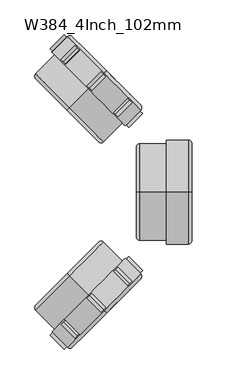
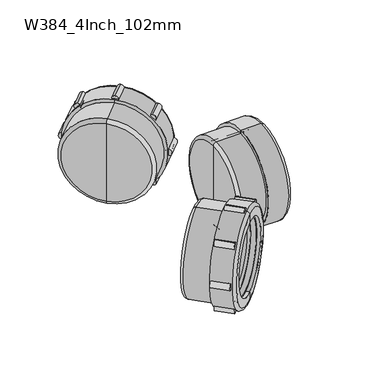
"""IFC4 building model written with IfcOpenShell, lengths in millimetres: pipe fitting geometry, Durapipe_PipeFitting_VulcatheneMechanical_DoubleWye_W38 : W384_4Inch_102mm."""

from ifc_helpers import new_model, si_unit, point, frame, frame_2d, origin, place, context, project, spatial, polyline, circle_curve, ellipse_curve, trimmed, segment, composite_curve, outline, extrude, source, transform, mapped, element, save
from ifc_brep_helpers import plane_surface, cylinder_surface, revolved_surface, advanced_brep


def w384_4inch_102mm_da0a81fd(model_context):
    return source(origin(), model_context, "Body", "SolidModel", [
        advanced_brep(
        [(137.8884702, -202.0884702, -45.3962554), (142.1384702, -197.8384702, -39.3858477), (197.8384702, -142.1384702, 39.3858477), (202.0884702, -137.8884702, 45.3962554), (184.2735424, -124.8735424, 42.0021428), (124.8735424, -184.2735424, -42.0021428), (98.7813021, -158.1813021, -42.0021428), (158.1813021, -98.7813021, 42.0021428), (157.0313021, -99.9313021, 40.3757972), (99.9313021, -157.0313021, -40.3757972), (189.5582141, -132.4582141, 40.3757972), (132.4582141, -189.5582141, -40.3757972), (188.5082141, -133.5082141, 38.890873), (133.5082141, -188.5082141, -38.890873), (136.3401946, -192.0401946, -39.3858477), (136.6901946, -191.6901946, -38.890873), (191.6901946, -136.6901946, 38.890873), (192.0401946, -136.3401946, 39.3858477)],
        [
            (0, 1),
            (1, 2, circle_curve(frame((169.9884702, -169.9884702, 0.0), z_axis=(-0.7071067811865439, 0.7071067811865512, 0.0), x_axis=(0.5000000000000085, 0.49999999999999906, 0.707106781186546)), 55.7)),
            (2, 3),
            (3, 0, circle_curve(frame((169.9884702, -169.9884702, 0.0), z_axis=(0.7071067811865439, -0.7071067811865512, 0.0), x_axis=(0.5000000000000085, 0.49999999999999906, 0.707106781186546)), 64.2)),
            (2, 1, circle_curve(frame((169.9884702, -169.9884702, 0.0), z_axis=(-0.7071067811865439, 0.7071067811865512, 0.0), x_axis=(0.5000000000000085, 0.49999999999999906, 0.707106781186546)), 55.7)),
            (0, 3, circle_curve(frame((169.9884702, -169.9884702, 0.0), z_axis=(0.7071067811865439, -0.7071067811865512, 0.0), x_axis=(0.5000000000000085, 0.49999999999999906, 0.707106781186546)), 64.2)),
            (3, 4),
            (4, 5, circle_curve(frame((154.5735424, -154.5735424, 0.0), z_axis=(0.7071067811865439, -0.7071067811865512, 0.0), x_axis=(0.5000000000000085, 0.49999999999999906, 0.707106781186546)), 59.4)),
            (5, 0),
            (5, 4, circle_curve(frame((154.5735424, -154.5735424, 0.0), z_axis=(0.7071067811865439, -0.7071067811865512, 0.0), x_axis=(0.5000000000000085, 0.49999999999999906, 0.707106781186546)), 59.4)),
            (6, 5),
            (4, 7),
            (7, 6, circle_curve(frame((128.4813021, -128.4813021, 0.0), z_axis=(0.7071067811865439, -0.7071067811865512, 0.0), x_axis=(0.5000000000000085, 0.49999999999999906, 0.707106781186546)), 59.4)),
            (6, 7, circle_curve(frame((128.4813021, -128.4813021, 0.0), z_axis=(0.7071067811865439, -0.7071067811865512, 0.0), x_axis=(0.5000000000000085, 0.49999999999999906, 0.707106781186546)), 59.4)),
            (7, 8),
            (8, 9, circle_curve(frame((128.4813021, -128.4813021, 0.0), z_axis=(0.7071067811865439, -0.7071067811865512, 0.0), x_axis=(0.5000000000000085, 0.49999999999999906, 0.707106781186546)), 57.1)),
            (9, 6),
            (9, 8, circle_curve(frame((128.4813021, -128.4813021, 0.0), z_axis=(0.7071067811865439, -0.7071067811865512, 0.0), x_axis=(0.5000000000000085, 0.49999999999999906, 0.707106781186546)), 57.1)),
            (8, 10),
            (10, 11, circle_curve(frame((161.0082141, -161.0082141, 0.0), z_axis=(0.7071067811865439, -0.7071067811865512, 0.0), x_axis=(0.5000000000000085, 0.49999999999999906, 0.707106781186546)), 57.1)),
            (11, 9),
            (11, 10, circle_curve(frame((161.0082141, -161.0082141, 0.0), z_axis=(0.7071067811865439, -0.7071067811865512, 0.0), x_axis=(0.5000000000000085, 0.49999999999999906, 0.707106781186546)), 57.1)),
            (10, 12),
            (12, 13, circle_curve(frame((161.0082141, -161.0082141, 0.0), z_axis=(0.7071067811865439, -0.7071067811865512, 0.0), x_axis=(0.5000000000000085, 0.49999999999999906, 0.707106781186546)), 55.0)),
            (13, 11),
            (13, 12, circle_curve(frame((161.0082141, -161.0082141, 0.0), z_axis=(0.7071067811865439, -0.7071067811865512, 0.0), x_axis=(0.5000000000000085, 0.49999999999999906, 0.707106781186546)), 55.0)),
            (14, 15),
            (15, 16, circle_curve(frame((164.1901946, -164.1901946, 0.0), z_axis=(-0.7071067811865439, 0.7071067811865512, 0.0), x_axis=(0.5000000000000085, 0.49999999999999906, 0.707106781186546)), 55.0)),
            (16, 17),
            (17, 14, circle_curve(frame((164.1901946, -164.1901946, 0.0), z_axis=(0.7071067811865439, -0.7071067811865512, 0.0), x_axis=(0.5000000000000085, 0.49999999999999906, 0.707106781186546)), 55.7)),
            (16, 15, circle_curve(frame((164.1901946, -164.1901946, 0.0), z_axis=(-0.7071067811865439, 0.7071067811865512, 0.0), x_axis=(0.5000000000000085, 0.49999999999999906, 0.707106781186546)), 55.0)),
            (14, 17, circle_curve(frame((164.1901946, -164.1901946, 0.0), z_axis=(0.7071067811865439, -0.7071067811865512, 0.0), x_axis=(0.5000000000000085, 0.49999999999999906, 0.707106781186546)), 55.7)),
            (1, 14),
            (17, 2),
            (12, 16),
            (15, 13),
        ],
        [
            plane_surface(frame((169.9884702, -169.9884702, 0.0), z_axis=(0.707106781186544, -0.7071067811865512, 0.0), x_axis=(0.5000000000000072, 0.4999999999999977, 0.7071067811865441))),
            revolved_surface(polyline([(202.0884702, -137.8884702, 45.3962554), (184.2735424, -124.8735424, 42.0021428)]), (173.5240041, -173.5240041, 0.0), (-0.7071067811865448, 0.7071067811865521, 0.0)),
            cylinder_surface(frame((127.0171274, -127.0171274, 0.0), z_axis=(-0.7071067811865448, 0.7071067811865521, 0.0), x_axis=(0.5000000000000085, 0.49999999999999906, 0.707106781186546)), 59.4),
            plane_surface(frame((128.4813021, -128.4813021, 0.0), z_axis=(-0.707106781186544, 0.7071067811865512, 0.0), x_axis=(0.5000000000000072, 0.4999999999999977, 0.7071067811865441))),
            revolved_surface(polyline([(157.03130210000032, -99.93130209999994, 40.37579720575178), (189.55821410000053, -132.45821410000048, 40.37579720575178)]), (126.0113846, -126.0113846, 0.0), (-0.7071067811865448, 0.7071067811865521, 0.0)),
            plane_surface(frame((161.0082141, -161.0082141, 0.0), z_axis=(-0.707106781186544, 0.7071067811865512, 0.0), x_axis=(0.5000000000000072, 0.4999999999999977, 0.7071067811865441))),
            plane_surface(frame((164.1901946, -164.1901946, 0.0), z_axis=(0.707106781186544, -0.7071067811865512, 0.0), x_axis=(0.5000000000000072, 0.4999999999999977, 0.7071067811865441))),
            revolved_surface(polyline([(192.04019460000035, -136.34019459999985, 39.385847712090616), (197.83847020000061, -142.13847020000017, 39.385847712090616)]), (173.5240041, -173.5240041, 0.0), (-0.7071067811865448, 0.7071067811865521, 0.0)),
            revolved_surface(polyline([(188.50821410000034, -133.50821409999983, 38.89087296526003), (191.69019460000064, -136.69019460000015, 38.89087296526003)]), (171.0959355, -171.0959355, 0.0), (-0.7071067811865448, 0.7071067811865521, 0.0)),
        ],
        [
            (0, [[1, 2, 3, 4]]),
            (0, [[5, -1, 6, -3]]),
            (1, [[7, 8, 9, -4]]),
            (1, [[-9, 10, -7, -6]]),
            (2, [[11, -8, 12, 13]]),
            (2, [[-10, -11, 14, -12]]),
            (3, [[15, 16, 17, -13]]),
            (3, [[-17, 18, -15, -14]]),
            (4, [[-16, 19, 20, 21]]),
            (4, [[22, -19, -18, -21]]),
            (5, [[23, 24, 25, -20]]),
            (5, [[-25, 26, -23, -22]]),
            (6, [[27, 28, 29, 30]]),
            (6, [[-29, 31, -27, 32]]),
            (7, [[33, -30, 34, -2]]),
            (7, [[-34, -32, -33, -5]]),
            (8, [[-24, 35, -28, 36]]),
            (8, [[-31, -35, -26, -36]]),
        ],
    ),
        advanced_brep(
        [(148.06816, -148.06816, -75.0), (170.3420236, -170.3420236, -75.0), (170.3420236, -170.3420236, 75.0), (148.06816, -148.06816, 75.0), (148.06816, -148.06816, -69.5), (148.06816, -148.06816, 69.5), (173.8775575, -173.8775575, -70.0), (173.8775575, -173.8775575, -57.5), (173.8775575, -173.8775575, 57.5), (173.8775575, -173.8775575, 70.0), (169.9884702, -169.9884702, -66.0), (148.06816, -148.06816, -66.0), (148.06816, -148.06816, 66.0), (169.9884702, -169.9884702, 66.0), (169.9884702, -169.9884702, -57.5), (169.9884702, -169.9884702, 57.5), (120.8445489, -120.8445489, -69.5), (120.8445489, -120.8445489, 69.5), (117.309015, -117.309015, -64.5), (117.309015, -117.309015, 64.5), (117.309015, -117.309015, 0.0), (148.06816, -148.06816, 0.0)],
        [
            (0, 1),
            (1, 2, circle_curve(frame((170.3420236, -170.3420236, 0.0), z_axis=(-0.7071067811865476, 0.7071067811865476, 0.0), x_axis=(0.0, 0.0, 1.0000000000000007)), 75.0)),
            (2, 3),
            (3, 0, circle_curve(frame((148.06816, -148.06816, 0.0), z_axis=(0.7071067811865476, -0.7071067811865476, 0.0), x_axis=(0.0, 0.0, 1.0000000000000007)), 75.0)),
            (2, 1, circle_curve(frame((170.3420236, -170.3420236, 0.0), z_axis=(-0.7071067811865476, 0.7071067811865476, 0.0), x_axis=(0.0, 0.0, 1.0000000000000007)), 75.0)),
            (0, 3, circle_curve(frame((148.06816, -148.06816, 0.0), z_axis=(0.7071067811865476, -0.7071067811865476, 0.0), x_axis=(0.0, 0.0, 1.0000000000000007)), 75.0)),
            (4, 0),
            (3, 5),
            (5, 4, circle_curve(frame((148.06816, -148.06816, 0.0), z_axis=(0.7071067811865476, -0.7071067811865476, 0.0), x_axis=(0.0, 0.0, 1.0000000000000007)), 69.5)),
            (4, 5, circle_curve(frame((148.06816, -148.06816, 0.0), z_axis=(0.7071067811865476, -0.7071067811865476, 0.0), x_axis=(0.0, 0.0, 1.0000000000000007)), 69.5)),
            (6, 7),
            (7, 8, circle_curve(frame((173.8775575, -173.8775575, 0.0), z_axis=(-0.7071067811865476, 0.7071067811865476, 0.0), x_axis=(0.0, 0.0, 1.0000000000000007)), 57.5)),
            (8, 9),
            (9, 6, circle_curve(frame((173.8775575, -173.8775575, 0.0), z_axis=(0.7071067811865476, -0.7071067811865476, 0.0), x_axis=(0.0, 0.0, 1.0000000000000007)), 70.0)),
            (8, 7, circle_curve(frame((173.8775575, -173.8775575, 0.0), z_axis=(-0.7071067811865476, 0.7071067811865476, 0.0), x_axis=(0.0, 0.0, 1.0000000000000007)), 57.5)),
            (6, 9, circle_curve(frame((173.8775575, -173.8775575, 0.0), z_axis=(0.7071067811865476, -0.7071067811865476, 0.0), x_axis=(0.0, 0.0, 1.0000000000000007)), 70.0)),
            (1, 6, circle_curve(frame((170.3420236, -170.3420236, -70.0), z_axis=(-0.7071067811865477, -0.7071067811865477, 0.0), x_axis=(0.7071067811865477, -0.7071067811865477, 0.0)), 5.0)),
            (9, 2, circle_curve(frame((170.3420236, -170.3420236, 70.0), z_axis=(-0.7071067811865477, -0.7071067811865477, 0.0), x_axis=(0.7071067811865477, -0.7071067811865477, 0.0)), 5.0)),
            (10, 11),
            (11, 12, circle_curve(frame((148.06816, -148.06816, 0.0), z_axis=(-0.7071067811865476, 0.7071067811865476, 0.0), x_axis=(0.0, 0.0, 1.0000000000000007)), 66.0)),
            (12, 13),
            (13, 10, circle_curve(frame((169.9884702, -169.9884702, 0.0), z_axis=(0.7071067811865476, -0.7071067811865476, 0.0), x_axis=(0.0, 0.0, 1.0000000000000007)), 66.0)),
            (12, 11, circle_curve(frame((148.06816, -148.06816, 0.0), z_axis=(-0.7071067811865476, 0.7071067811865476, 0.0), x_axis=(0.0, 0.0, 1.0000000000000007)), 66.0)),
            (10, 13, circle_curve(frame((169.9884702, -169.9884702, 0.0), z_axis=(0.7071067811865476, -0.7071067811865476, 0.0), x_axis=(0.0, 0.0, 1.0000000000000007)), 66.0)),
            (14, 10),
            (13, 15),
            (15, 14, circle_curve(frame((169.9884702, -169.9884702, 0.0), z_axis=(0.7071067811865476, -0.7071067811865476, 0.0), x_axis=(0.0, 0.0, 1.0000000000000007)), 57.5)),
            (14, 15, circle_curve(frame((169.9884702, -169.9884702, 0.0), z_axis=(0.7071067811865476, -0.7071067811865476, 0.0), x_axis=(0.0, 0.0, 1.0000000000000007)), 57.5)),
            (7, 14),
            (15, 8),
            (16, 4),
            (5, 17),
            (17, 16, circle_curve(frame((120.8445489, -120.8445489, 0.0), z_axis=(0.7071067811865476, -0.7071067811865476, 0.0), x_axis=(0.0, 0.0, 1.0000000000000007)), 69.5)),
            (16, 17, circle_curve(frame((120.8445489, -120.8445489, 0.0), z_axis=(0.7071067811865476, -0.7071067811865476, 0.0), x_axis=(0.0, 0.0, 1.0000000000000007)), 69.5)),
            (18, 16, circle_curve(frame((120.8445489, -120.8445489, -64.5), z_axis=(-0.7071067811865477, -0.7071067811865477, 0.0), x_axis=(0.7071067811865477, -0.7071067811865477, 0.0)), 5.0)),
            (17, 19, circle_curve(frame((120.8445489, -120.8445489, 64.5), z_axis=(-0.7071067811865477, -0.7071067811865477, 0.0), x_axis=(0.7071067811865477, -0.7071067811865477, 0.0)), 5.0)),
            (19, 18, circle_curve(frame((117.309015, -117.309015, 0.0), z_axis=(0.7071067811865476, -0.7071067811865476, 0.0), x_axis=(0.0, 0.0, 1.0000000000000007)), 64.5)),
            (18, 19, circle_curve(frame((117.309015, -117.309015, 0.0), z_axis=(0.7071067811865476, -0.7071067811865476, 0.0), x_axis=(0.0, 0.0, 1.0000000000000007)), 64.5)),
            (20, 18),
            (19, 20),
            (11, 21),
            (21, 12),
        ],
        [
            cylinder_surface(frame((1277.5311074, -1277.5311074, 0.0), z_axis=(-0.7071067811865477, 0.7071067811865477, 0.0), x_axis=(0.0, 0.0, 1.0000000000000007)), 75.0),
            plane_surface(frame((148.06816, -148.06816, 0.0), z_axis=(-0.7071067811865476, 0.7071067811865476, 0.0), x_axis=(0.0, 0.0, 1.0))),
            plane_surface(frame((173.8775575, -173.8775575, 0.0), z_axis=(0.7071067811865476, -0.7071067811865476, 0.0), x_axis=(0.0, 0.0, 1.0))),
            revolved_surface(trimmed(ellipse_curve(frame((170.3420236, -170.3420236, 70.0), z_axis=(-0.7071067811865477, -0.7071067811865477, 0.0), x_axis=(0.7071067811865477, -0.7071067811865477, 0.0)), 5.0, 5.0), [point((173.8775575, -173.8775575, 70.0))], [point((170.3420236, -170.3420236, 75.0))], True, "CARTESIAN"), (1277.5311074, -1277.5311074, 0.0), (-0.7071067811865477, 0.7071067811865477, 0.0)),
            revolved_surface(polyline([(148.06815999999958, -148.06815999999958, 66.00000000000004), (169.98847019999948, -169.98847019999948, 66.00000000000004)]), (1277.5311074, -1277.5311074, 0.0), (-0.7071067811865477, 0.7071067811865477, 0.0)),
            plane_surface(frame((169.9884702, -169.9884702, 0.0), z_axis=(-0.7071067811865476, 0.7071067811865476, 0.0), x_axis=(0.0, 0.0, 1.0))),
            revolved_surface(polyline([(169.98847019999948, -169.98847019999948, 57.500000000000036), (173.8775574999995, -173.8775574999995, 57.500000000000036)]), (1277.5311074, -1277.5311074, 0.0), (-0.7071067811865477, 0.7071067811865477, 0.0)),
            cylinder_surface(frame((1277.5311074, -1277.5311074, 0.0), z_axis=(-0.7071067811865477, 0.7071067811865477, 0.0), x_axis=(0.0, 0.0, 1.0000000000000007)), 69.5),
            revolved_surface(trimmed(ellipse_curve(frame((120.8445489, -120.8445489, 64.5), z_axis=(-0.7071067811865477, -0.7071067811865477, 0.0), x_axis=(0.7071067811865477, -0.7071067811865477, 0.0)), 5.0, 5.0), [point((120.8445489, -120.8445489, 69.5))], [point((117.309015, -117.309015, 64.5))], True, "CARTESIAN"), (1277.5311074, -1277.5311074, 0.0), (-0.7071067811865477, 0.7071067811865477, 0.0)),
            plane_surface(frame((117.309015, -117.309015, 0.0), z_axis=(-0.7071067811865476, 0.7071067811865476, 0.0), x_axis=(0.0, 0.0, 1.0))),
            plane_surface(frame((148.06816, -148.06816, 0.0), z_axis=(0.7071067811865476, -0.7071067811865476, 0.0), x_axis=(0.0, 0.0, 1.0))),
        ],
        [
            (0, [[1, 2, 3, 4]]),
            (0, [[-3, 5, -1, 6]]),
            (1, [[7, -4, 8, 9]]),
            (1, [[-8, -6, -7, 10]]),
            (2, [[11, 12, 13, 14]]),
            (2, [[-13, 15, -11, 16]]),
            (3, [[17, -14, 18, -2]]),
            (3, [[-18, -16, -17, -5]]),
            (4, [[19, 20, 21, 22]]),
            (4, [[-21, 23, -19, 24]]),
            (5, [[25, -22, 26, 27]]),
            (5, [[-26, -24, -25, 28]]),
            (6, [[29, -27, 30, -12]]),
            (6, [[-30, -28, -29, -15]]),
            (7, [[31, -9, 32, 33]]),
            (7, [[-32, -10, -31, 34]]),
            (8, [[35, -33, 36, 37]]),
            (8, [[-36, -34, -35, 38]]),
            (9, [[39, -37, 40]]),
            (9, [[-40, -38, -39]]),
            (10, [[41, 42, -20]]),
            (10, [[-42, -41, -23]]),
        ],
    ),
        extrude(outline(composite_curve([segment(trimmed(circle_curve(frame_2d((0.0, 5.0)), 5.0), [point((0.0, 10.0))], [point((0.0, 0.0))], False, "CARTESIAN"), True, "CONTINUOUS"), segment(trimmed(circle_curve(frame_2d((0.0, 5.0)), 5.0), [point((0.0, 0.0))], [point((0.0, 10.0))], False, "CARTESIAN"), True, "CONTINUOUS")], self_intersect=False)), frame((222.314372, -116.2483548, 5.0), z_axis=(-0.7071067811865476, 0.7071067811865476, 0.0), x_axis=(0.7071067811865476, 0.7071067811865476, 0.0)), (0.0, 0.0, 1.0), 28.2),
        extrude(outline(composite_curve([segment(trimmed(circle_curve(frame_2d((-21.9669914, -48.0330086)), 5.0), [point((-21.9669914, -43.0330086))], [point((-21.9669914, -53.0330086))], False, "CARTESIAN"), True, "CONTINUOUS"), segment(trimmed(circle_curve(frame_2d((-21.9669914, -48.0330086)), 5.0), [point((-21.9669914, -53.0330086))], [point((-21.9669914, -43.0330086))], False, "CARTESIAN"), True, "CONTINUOUS")], self_intersect=False)), frame((222.314372, -116.2483548, 5.0), z_axis=(-0.7071067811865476, 0.7071067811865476, 0.0), x_axis=(0.7071067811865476, 0.7071067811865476, 0.0)), (0.0, 0.0, 1.0), 28.2),
        extrude(outline(composite_curve([segment(trimmed(circle_curve(frame_2d((-75.0, -70.0)), 5.0), [point((-75.0, -65.0))], [point((-75.0, -75.0))], False, "CARTESIAN"), True, "CONTINUOUS"), segment(trimmed(circle_curve(frame_2d((-75.0, -70.0)), 5.0), [point((-75.0, -75.0))], [point((-75.0, -65.0))], False, "CARTESIAN"), True, "CONTINUOUS")], self_intersect=False)), frame((222.314372, -116.2483548, 5.0), z_axis=(-0.7071067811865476, 0.7071067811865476, 0.0), x_axis=(0.7071067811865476, 0.7071067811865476, 0.0)), (0.0, 0.0, 1.0), 28.2),
        extrude(outline(composite_curve([segment(trimmed(circle_curve(frame_2d((-128.0330086, -48.0330086)), 5.0), [point((-128.0330086, -43.0330086))], [point((-128.0330086, -53.0330086))], False, "CARTESIAN"), True, "CONTINUOUS"), segment(trimmed(circle_curve(frame_2d((-128.0330086, -48.0330086)), 5.0), [point((-128.0330086, -53.0330086))], [point((-128.0330086, -43.0330086))], False, "CARTESIAN"), True, "CONTINUOUS")], self_intersect=False)), frame((222.314372, -116.2483548, 5.0), z_axis=(-0.7071067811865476, 0.7071067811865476, 0.0), x_axis=(0.7071067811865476, 0.7071067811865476, 0.0)), (0.0, 0.0, 1.0), 28.2),
        extrude(outline(composite_curve([segment(trimmed(circle_curve(frame_2d((-150.0, 5.0)), 5.0), [point((-150.0, 10.0))], [point((-150.0, 0.0))], False, "CARTESIAN"), True, "CONTINUOUS"), segment(trimmed(circle_curve(frame_2d((-150.0, 5.0)), 5.0), [point((-150.0, 0.0))], [point((-150.0, 10.0))], False, "CARTESIAN"), True, "CONTINUOUS")], self_intersect=False)), frame((222.314372, -116.2483548, 5.0), z_axis=(-0.7071067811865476, 0.7071067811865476, 0.0), x_axis=(0.7071067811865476, 0.7071067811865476, 0.0)), (0.0, 0.0, 1.0), 28.2),
        extrude(outline(composite_curve([segment(trimmed(circle_curve(frame_2d((-128.0330086, 58.0330086)), 5.0), [point((-128.0330086, 63.0330086))], [point((-128.0330086, 53.0330086))], False, "CARTESIAN"), True, "CONTINUOUS"), segment(trimmed(circle_curve(frame_2d((-128.0330086, 58.0330086)), 5.0), [point((-128.0330086, 53.0330086))], [point((-128.0330086, 63.0330086))], False, "CARTESIAN"), True, "CONTINUOUS")], self_intersect=False)), frame((222.314372, -116.2483548, 5.0), z_axis=(-0.7071067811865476, 0.7071067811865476, 0.0), x_axis=(0.7071067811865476, 0.7071067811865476, 0.0)), (0.0, 0.0, 1.0), 28.2),
        extrude(outline(composite_curve([segment(trimmed(circle_curve(frame_2d((-75.0, 80.0)), 5.0), [point((-75.0, 85.0))], [point((-75.0, 75.0))], False, "CARTESIAN"), True, "CONTINUOUS"), segment(trimmed(circle_curve(frame_2d((-75.0, 80.0)), 5.0), [point((-75.0, 75.0))], [point((-75.0, 85.0))], False, "CARTESIAN"), True, "CONTINUOUS")], self_intersect=False)), frame((222.314372, -116.2483548, 5.0), z_axis=(-0.7071067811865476, 0.7071067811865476, 0.0), x_axis=(0.7071067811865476, 0.7071067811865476, 0.0)), (0.0, 0.0, 1.0), 28.2),
        extrude(outline(composite_curve([segment(trimmed(circle_curve(frame_2d((-21.9669914, 58.0330086)), 5.0), [point((-21.9669914, 63.0330086))], [point((-21.9669914, 53.0330086))], False, "CARTESIAN"), True, "CONTINUOUS"), segment(trimmed(circle_curve(frame_2d((-21.9669914, 58.0330086)), 5.0), [point((-21.9669914, 53.0330086))], [point((-21.9669914, 63.0330086))], False, "CARTESIAN"), True, "CONTINUOUS")], self_intersect=False)), frame((222.314372, -116.2483548, 5.0), z_axis=(-0.7071067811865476, 0.7071067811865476, 0.0), x_axis=(0.7071067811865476, 0.7071067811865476, 0.0)), (0.0, 0.0, 1.0), 28.2),
        advanced_brep(
        [(202.0884702, 137.8884702, -45.3962554), (197.8384702, 142.1384702, -39.3858477), (142.1384702, 197.8384702, 39.3858477), (137.8884702, 202.0884702, 45.3962554), (124.8735424, 184.2735424, 42.0021428), (184.2735424, 124.8735424, -42.0021428), (158.1813021, 98.7813021, -42.0021428), (98.7813021, 158.1813021, 42.0021428), (99.9313021, 157.0313021, 40.3757972), (157.0313021, 99.9313021, -40.3757972), (132.4582141, 189.5582141, 40.3757972), (189.5582141, 132.4582141, -40.3757972), (133.5082141, 188.5082141, 38.890873), (188.5082141, 133.5082141, -38.890873), (192.0401946, 136.3401946, -39.3858477), (191.6901946, 136.6901946, -38.890873), (136.6901946, 191.6901946, 38.890873), (136.3401946, 192.0401946, 39.3858477)],
        [
            (0, 1),
            (1, 2, circle_curve(frame((169.9884702, 169.9884702, 0.0), z_axis=(-0.7071067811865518, -0.7071067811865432, 0.0), x_axis=(-0.4999999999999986, 0.500000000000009, 0.7071067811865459)), 55.7)),
            (2, 3),
            (3, 0, circle_curve(frame((169.9884702, 169.9884702, 0.0), z_axis=(0.7071067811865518, 0.7071067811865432, 0.0), x_axis=(-0.4999999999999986, 0.500000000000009, 0.7071067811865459)), 64.2)),
            (2, 1, circle_curve(frame((169.9884702, 169.9884702, 0.0), z_axis=(-0.7071067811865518, -0.7071067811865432, 0.0), x_axis=(-0.4999999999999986, 0.500000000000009, 0.7071067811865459)), 55.7)),
            (0, 3, circle_curve(frame((169.9884702, 169.9884702, 0.0), z_axis=(0.7071067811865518, 0.7071067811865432, 0.0), x_axis=(-0.4999999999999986, 0.500000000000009, 0.7071067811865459)), 64.2)),
            (3, 4),
            (4, 5, circle_curve(frame((154.5735424, 154.5735424, 0.0), z_axis=(0.7071067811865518, 0.7071067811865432, 0.0), x_axis=(-0.4999999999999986, 0.500000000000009, 0.7071067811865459)), 59.4)),
            (5, 0),
            (5, 4, circle_curve(frame((154.5735424, 154.5735424, 0.0), z_axis=(0.7071067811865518, 0.7071067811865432, 0.0), x_axis=(-0.4999999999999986, 0.500000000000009, 0.7071067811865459)), 59.4)),
            (6, 5),
            (4, 7),
            (7, 6, circle_curve(frame((128.4813021, 128.4813021, 0.0), z_axis=(0.7071067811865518, 0.7071067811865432, 0.0), x_axis=(-0.4999999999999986, 0.500000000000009, 0.7071067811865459)), 59.4)),
            (6, 7, circle_curve(frame((128.4813021, 128.4813021, 0.0), z_axis=(0.7071067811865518, 0.7071067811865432, 0.0), x_axis=(-0.4999999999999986, 0.500000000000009, 0.7071067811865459)), 59.4)),
            (7, 8),
            (8, 9, circle_curve(frame((128.4813021, 128.4813021, 0.0), z_axis=(0.7071067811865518, 0.7071067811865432, 0.0), x_axis=(-0.4999999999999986, 0.500000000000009, 0.7071067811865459)), 57.1)),
            (9, 6),
            (9, 8, circle_curve(frame((128.4813021, 128.4813021, 0.0), z_axis=(0.7071067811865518, 0.7071067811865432, 0.0), x_axis=(-0.4999999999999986, 0.500000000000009, 0.7071067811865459)), 57.1)),
            (8, 10),
            (10, 11, circle_curve(frame((161.0082141, 161.0082141, 0.0), z_axis=(0.7071067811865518, 0.7071067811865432, 0.0), x_axis=(-0.4999999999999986, 0.500000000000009, 0.7071067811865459)), 57.1)),
            (11, 9),
            (11, 10, circle_curve(frame((161.0082141, 161.0082141, 0.0), z_axis=(0.7071067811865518, 0.7071067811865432, 0.0), x_axis=(-0.4999999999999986, 0.500000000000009, 0.7071067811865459)), 57.1)),
            (10, 12),
            (12, 13, circle_curve(frame((161.0082141, 161.0082141, 0.0), z_axis=(0.7071067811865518, 0.7071067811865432, 0.0), x_axis=(-0.4999999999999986, 0.500000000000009, 0.7071067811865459)), 55.0)),
            (13, 11),
            (13, 12, circle_curve(frame((161.0082141, 161.0082141, 0.0), z_axis=(0.7071067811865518, 0.7071067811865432, 0.0), x_axis=(-0.4999999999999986, 0.500000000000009, 0.7071067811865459)), 55.0)),
            (14, 15),
            (15, 16, circle_curve(frame((164.1901946, 164.1901946, 0.0), z_axis=(-0.7071067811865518, -0.7071067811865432, 0.0), x_axis=(-0.4999999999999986, 0.500000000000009, 0.7071067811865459)), 55.0)),
            (16, 17),
            (17, 14, circle_curve(frame((164.1901946, 164.1901946, 0.0), z_axis=(0.7071067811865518, 0.7071067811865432, 0.0), x_axis=(-0.4999999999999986, 0.500000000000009, 0.7071067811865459)), 55.7)),
            (16, 15, circle_curve(frame((164.1901946, 164.1901946, 0.0), z_axis=(-0.7071067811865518, -0.7071067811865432, 0.0), x_axis=(-0.4999999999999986, 0.500000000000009, 0.7071067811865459)), 55.0)),
            (14, 17, circle_curve(frame((164.1901946, 164.1901946, 0.0), z_axis=(0.7071067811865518, 0.7071067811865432, 0.0), x_axis=(-0.4999999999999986, 0.500000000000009, 0.7071067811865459)), 55.7)),
            (1, 14),
            (17, 2),
            (12, 16),
            (15, 13),
        ],
        [
            plane_surface(frame((169.9884702, 169.9884702, 0.0), z_axis=(0.7071067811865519, 0.7071067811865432, 0.0), x_axis=(-0.4999999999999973, 0.5000000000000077, 0.707106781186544))),
            revolved_surface(polyline([(137.8884702, 202.0884702, 45.3962554), (124.8735424, 184.2735424, 42.0021428)]), (173.5240041, 173.5240041, 0.0), (-0.7071067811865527, -0.7071067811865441, 0.0)),
            cylinder_surface(frame((127.0171274, 127.0171274, 0.0), z_axis=(-0.7071067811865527, -0.7071067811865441, 0.0), x_axis=(-0.4999999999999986, 0.500000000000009, 0.7071067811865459)), 59.4),
            plane_surface(frame((128.4813021, 128.4813021, 0.0), z_axis=(-0.7071067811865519, -0.7071067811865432, 0.0), x_axis=(-0.4999999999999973, 0.5000000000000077, 0.707106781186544))),
            revolved_surface(polyline([(99.93130209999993, 157.03130210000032, 40.37579720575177), (132.45821410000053, 189.55821410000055, 40.37579720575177)]), (126.0113846, 126.0113846, 0.0), (-0.7071067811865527, -0.7071067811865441, 0.0)),
            plane_surface(frame((161.0082141, 161.0082141, 0.0), z_axis=(-0.7071067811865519, -0.7071067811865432, 0.0), x_axis=(-0.4999999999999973, 0.5000000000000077, 0.707106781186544))),
            plane_surface(frame((164.1901946, 164.1901946, 0.0), z_axis=(0.7071067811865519, 0.7071067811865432, 0.0), x_axis=(-0.4999999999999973, 0.5000000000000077, 0.707106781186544))),
            revolved_surface(polyline([(136.34019459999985, 192.04019460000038, 39.38584771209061), (142.13847020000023, 197.83847020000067, 39.38584771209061)]), (173.5240041, 173.5240041, 0.0), (-0.7071067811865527, -0.7071067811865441, 0.0)),
            revolved_surface(polyline([(133.50821409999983, 188.50821410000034, 38.89087296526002), (136.6901946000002, 191.6901946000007, 38.89087296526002)]), (171.0959355, 171.0959355, 0.0), (-0.7071067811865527, -0.7071067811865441, 0.0)),
        ],
        [
            (0, [[1, 2, 3, 4]]),
            (0, [[5, -1, 6, -3]]),
            (1, [[7, 8, 9, -4]]),
            (1, [[-9, 10, -7, -6]]),
            (2, [[11, -8, 12, 13]]),
            (2, [[-10, -11, 14, -12]]),
            (3, [[15, 16, 17, -13]]),
            (3, [[-17, 18, -15, -14]]),
            (4, [[-16, 19, 20, 21]]),
            (4, [[22, -19, -18, -21]]),
            (5, [[23, 24, 25, -20]]),
            (5, [[-25, 26, -23, -22]]),
            (6, [[27, 28, 29, 30]]),
            (6, [[-29, 31, -27, 32]]),
            (7, [[33, -30, 34, -2]]),
            (7, [[-34, -32, -33, -5]]),
            (8, [[-24, 35, -28, 36]]),
            (8, [[-31, -35, -26, -36]]),
        ],
    ),
        advanced_brep(
        [(148.06816, 148.06816, -75.0), (170.3420236, 170.3420236, -75.0), (170.3420236, 170.3420236, 75.0), (148.06816, 148.06816, 75.0), (148.06816, 148.06816, -69.5), (148.06816, 148.06816, 69.5), (173.8775575, 173.8775575, -70.0), (173.8775575, 173.8775575, -57.5), (173.8775575, 173.8775575, 57.5), (173.8775575, 173.8775575, 70.0), (169.9884702, 169.9884702, -66.0), (148.06816, 148.06816, -66.0), (148.06816, 148.06816, 66.0), (169.9884702, 169.9884702, 66.0), (169.9884702, 169.9884702, -57.5), (169.9884702, 169.9884702, 57.5), (120.8445489, 120.8445489, -69.5), (120.8445489, 120.8445489, 69.5), (117.309015, 117.309015, -64.5), (117.309015, 117.309015, 64.5), (117.309015, 117.309015, 0.0), (148.06816, 148.06816, 0.0)],
        [
            (0, 1),
            (1, 2, circle_curve(frame((170.3420236, 170.3420236, 0.0), z_axis=(-0.7071067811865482, -0.707106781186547, 0.0), x_axis=(0.0, 0.0, 1.0000000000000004)), 75.0)),
            (2, 3),
            (3, 0, circle_curve(frame((148.06816, 148.06816, 0.0), z_axis=(0.7071067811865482, 0.707106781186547, 0.0), x_axis=(0.0, 0.0, 1.0000000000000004)), 75.0)),
            (2, 1, circle_curve(frame((170.3420236, 170.3420236, 0.0), z_axis=(-0.7071067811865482, -0.707106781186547, 0.0), x_axis=(0.0, 0.0, 1.0000000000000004)), 75.0)),
            (0, 3, circle_curve(frame((148.06816, 148.06816, 0.0), z_axis=(0.7071067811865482, 0.707106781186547, 0.0), x_axis=(0.0, 0.0, 1.0000000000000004)), 75.0)),
            (4, 0),
            (3, 5),
            (5, 4, circle_curve(frame((148.06816, 148.06816, 0.0), z_axis=(0.7071067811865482, 0.707106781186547, 0.0), x_axis=(0.0, 0.0, 1.0000000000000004)), 69.5)),
            (4, 5, circle_curve(frame((148.06816, 148.06816, 0.0), z_axis=(0.7071067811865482, 0.707106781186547, 0.0), x_axis=(0.0, 0.0, 1.0000000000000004)), 69.5)),
            (6, 7),
            (7, 8, circle_curve(frame((173.8775575, 173.8775575, 0.0), z_axis=(-0.7071067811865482, -0.707106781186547, 0.0), x_axis=(0.0, 0.0, 1.0000000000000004)), 57.5)),
            (8, 9),
            (9, 6, circle_curve(frame((173.8775575, 173.8775575, 0.0), z_axis=(0.7071067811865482, 0.707106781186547, 0.0), x_axis=(0.0, 0.0, 1.0000000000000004)), 70.0)),
            (8, 7, circle_curve(frame((173.8775575, 173.8775575, 0.0), z_axis=(-0.7071067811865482, -0.707106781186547, 0.0), x_axis=(0.0, 0.0, 1.0000000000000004)), 57.5)),
            (6, 9, circle_curve(frame((173.8775575, 173.8775575, 0.0), z_axis=(0.7071067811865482, 0.707106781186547, 0.0), x_axis=(0.0, 0.0, 1.0000000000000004)), 70.0)),
            (1, 6, circle_curve(frame((170.3420236, 170.3420236, -70.0), z_axis=(0.707106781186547, -0.7071067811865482, 0.0), x_axis=(0.7071067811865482, 0.707106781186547, 0.0)), 5.0)),
            (9, 2, circle_curve(frame((170.3420236, 170.3420236, 70.0), z_axis=(0.707106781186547, -0.7071067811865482, 0.0), x_axis=(0.7071067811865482, 0.707106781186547, 0.0)), 5.0)),
            (10, 11),
            (11, 12, circle_curve(frame((148.06816, 148.06816, 0.0), z_axis=(-0.7071067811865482, -0.707106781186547, 0.0), x_axis=(0.0, 0.0, 1.0000000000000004)), 66.0)),
            (12, 13),
            (13, 10, circle_curve(frame((169.9884702, 169.9884702, 0.0), z_axis=(0.7071067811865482, 0.707106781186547, 0.0), x_axis=(0.0, 0.0, 1.0000000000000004)), 66.0)),
            (12, 11, circle_curve(frame((148.06816, 148.06816, 0.0), z_axis=(-0.7071067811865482, -0.707106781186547, 0.0), x_axis=(0.0, 0.0, 1.0000000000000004)), 66.0)),
            (10, 13, circle_curve(frame((169.9884702, 169.9884702, 0.0), z_axis=(0.7071067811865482, 0.707106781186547, 0.0), x_axis=(0.0, 0.0, 1.0000000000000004)), 66.0)),
            (14, 10),
            (13, 15),
            (15, 14, circle_curve(frame((169.9884702, 169.9884702, 0.0), z_axis=(0.7071067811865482, 0.707106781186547, 0.0), x_axis=(0.0, 0.0, 1.0000000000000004)), 57.5)),
            (14, 15, circle_curve(frame((169.9884702, 169.9884702, 0.0), z_axis=(0.7071067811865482, 0.707106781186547, 0.0), x_axis=(0.0, 0.0, 1.0000000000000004)), 57.5)),
            (7, 14),
            (15, 8),
            (16, 4),
            (5, 17),
            (17, 16, circle_curve(frame((120.8445489, 120.8445489, 0.0), z_axis=(0.7071067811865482, 0.707106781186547, 0.0), x_axis=(0.0, 0.0, 1.0000000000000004)), 69.5)),
            (16, 17, circle_curve(frame((120.8445489, 120.8445489, 0.0), z_axis=(0.7071067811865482, 0.707106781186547, 0.0), x_axis=(0.0, 0.0, 1.0000000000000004)), 69.5)),
            (18, 16, circle_curve(frame((120.8445489, 120.8445489, -64.5), z_axis=(0.707106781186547, -0.7071067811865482, 0.0), x_axis=(0.7071067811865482, 0.707106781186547, 0.0)), 5.0)),
            (17, 19, circle_curve(frame((120.8445489, 120.8445489, 64.5), z_axis=(0.707106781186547, -0.7071067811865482, 0.0), x_axis=(0.7071067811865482, 0.707106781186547, 0.0)), 5.0)),
            (19, 18, circle_curve(frame((117.309015, 117.309015, 0.0), z_axis=(0.7071067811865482, 0.707106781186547, 0.0), x_axis=(0.0, 0.0, 1.0000000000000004)), 64.5)),
            (18, 19, circle_curve(frame((117.309015, 117.309015, 0.0), z_axis=(0.7071067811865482, 0.707106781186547, 0.0), x_axis=(0.0, 0.0, 1.0000000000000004)), 64.5)),
            (20, 18),
            (19, 20),
            (11, 21),
            (21, 12),
        ],
        [
            cylinder_surface(frame((1277.5311074, 1277.5311074, 0.0), z_axis=(-0.7071067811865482, -0.707106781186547, 0.0), x_axis=(0.0, 0.0, 1.0000000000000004)), 75.0),
            plane_surface(frame((148.06816, 148.06816, 0.0), z_axis=(-0.7071067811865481, -0.7071067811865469, 0.0), x_axis=(0.0, 0.0, 1.0))),
            plane_surface(frame((173.8775575, 173.8775575, 0.0), z_axis=(0.7071067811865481, 0.7071067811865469, 0.0), x_axis=(0.0, 0.0, 1.0))),
            revolved_surface(trimmed(ellipse_curve(frame((170.3420236, 170.3420236, 70.0), z_axis=(0.707106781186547, -0.7071067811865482, 0.0), x_axis=(0.7071067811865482, 0.707106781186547, 0.0)), 5.0, 5.0), [point((173.8775575, 173.8775575, 70.0))], [point((170.3420236, 170.3420236, 75.0))], True, "CARTESIAN"), (1277.5311074, 1277.5311074, 0.0), (-0.7071067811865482, -0.707106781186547, 0.0)),
            revolved_surface(polyline([(148.06815999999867, 148.06816000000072, 66.00000000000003), (169.98847019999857, 169.9884702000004, 66.00000000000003)]), (1277.5311074, 1277.5311074, 0.0), (-0.7071067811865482, -0.707106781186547, 0.0)),
            plane_surface(frame((169.9884702, 169.9884702, 0.0), z_axis=(-0.7071067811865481, -0.7071067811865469, 0.0), x_axis=(0.0, 0.0, 1.0))),
            revolved_surface(polyline([(169.98847019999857, 169.9884702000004, 57.50000000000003), (173.8775574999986, 173.87755750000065, 57.50000000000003)]), (1277.5311074, 1277.5311074, 0.0), (-0.7071067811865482, -0.707106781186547, 0.0)),
            cylinder_surface(frame((1277.5311074, 1277.5311074, 0.0), z_axis=(-0.7071067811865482, -0.707106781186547, 0.0), x_axis=(0.0, 0.0, 1.0000000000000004)), 69.5),
            revolved_surface(trimmed(ellipse_curve(frame((120.8445489, 120.8445489, 64.5), z_axis=(0.707106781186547, -0.7071067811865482, 0.0), x_axis=(0.7071067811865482, 0.707106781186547, 0.0)), 5.0, 5.0), [point((120.8445489, 120.8445489, 69.5))], [point((117.309015, 117.309015, 64.5))], True, "CARTESIAN"), (1277.5311074, 1277.5311074, 0.0), (-0.7071067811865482, -0.707106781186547, 0.0)),
            plane_surface(frame((117.309015, 117.309015, 0.0), z_axis=(-0.7071067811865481, -0.7071067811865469, 0.0), x_axis=(0.0, 0.0, 1.0))),
            plane_surface(frame((148.06816, 148.06816, 0.0), z_axis=(0.7071067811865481, 0.7071067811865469, 0.0), x_axis=(0.0, 0.0, 1.0))),
        ],
        [
            (0, [[1, 2, 3, 4]]),
            (0, [[-3, 5, -1, 6]]),
            (1, [[7, -4, 8, 9]]),
            (1, [[-8, -6, -7, 10]]),
            (2, [[11, 12, 13, 14]]),
            (2, [[-13, 15, -11, 16]]),
            (3, [[17, -14, 18, -2]]),
            (3, [[-18, -16, -17, -5]]),
            (4, [[19, 20, 21, 22]]),
            (4, [[-21, 23, -19, 24]]),
            (5, [[25, -22, 26, 27]]),
            (5, [[-26, -24, -25, 28]]),
            (6, [[29, -27, 30, -12]]),
            (6, [[-30, -28, -29, -15]]),
            (7, [[31, -9, 32, 33]]),
            (7, [[-32, -10, -31, 34]]),
            (8, [[35, -33, 36, 37]]),
            (8, [[-36, -34, -35, 38]]),
            (9, [[39, -37, 40]]),
            (9, [[-40, -38, -39]]),
            (10, [[41, 42, -20]]),
            (10, [[-42, -41, -23]]),
        ],
    ),
        extrude(outline(composite_curve([segment(trimmed(circle_curve(frame_2d((0.0, 5.0)), 5.0), [point((0.0, 10.0))], [point((0.0, 0.0))], False, "CARTESIAN"), True, "CONTINUOUS"), segment(trimmed(circle_curve(frame_2d((0.0, 5.0)), 5.0), [point((0.0, 0.0))], [point((0.0, 10.0))], False, "CARTESIAN"), True, "CONTINUOUS")], self_intersect=False)), frame((96.3079436, 202.3739608, 5.0), z_axis=(0.7071067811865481, 0.7071067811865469, 0.0), x_axis=(0.7071067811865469, -0.7071067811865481, 0.0)), (0.0, 0.0, 1.0), 28.2),
        extrude(outline(composite_curve([segment(trimmed(circle_curve(frame_2d((21.9669914, -48.0330086)), 5.0), [point((21.9669914, -43.0330086))], [point((21.9669914, -53.0330086))], False, "CARTESIAN"), True, "CONTINUOUS"), segment(trimmed(circle_curve(frame_2d((21.9669914, -48.0330086)), 5.0), [point((21.9669914, -53.0330086))], [point((21.9669914, -43.0330086))], False, "CARTESIAN"), True, "CONTINUOUS")], self_intersect=False)), frame((96.3079436, 202.3739608, 5.0), z_axis=(0.7071067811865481, 0.7071067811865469, 0.0), x_axis=(0.7071067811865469, -0.7071067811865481, 0.0)), (0.0, 0.0, 1.0), 28.2),
        extrude(outline(composite_curve([segment(trimmed(circle_curve(frame_2d((75.0, -70.0)), 5.0), [point((75.0, -65.0))], [point((75.0, -75.0))], False, "CARTESIAN"), True, "CONTINUOUS"), segment(trimmed(circle_curve(frame_2d((75.0, -70.0)), 5.0), [point((75.0, -75.0))], [point((75.0, -65.0))], False, "CARTESIAN"), True, "CONTINUOUS")], self_intersect=False)), frame((96.3079436, 202.3739608, 5.0), z_axis=(0.7071067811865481, 0.7071067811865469, 0.0), x_axis=(0.7071067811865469, -0.7071067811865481, 0.0)), (0.0, 0.0, 1.0), 28.2),
        extrude(outline(composite_curve([segment(trimmed(circle_curve(frame_2d((128.0330086, -48.0330086)), 5.0), [point((128.0330086, -43.0330086))], [point((128.0330086, -53.0330086))], False, "CARTESIAN"), True, "CONTINUOUS"), segment(trimmed(circle_curve(frame_2d((128.0330086, -48.0330086)), 5.0), [point((128.0330086, -53.0330086))], [point((128.0330086, -43.0330086))], False, "CARTESIAN"), True, "CONTINUOUS")], self_intersect=False)), frame((96.3079436, 202.3739608, 5.0), z_axis=(0.7071067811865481, 0.7071067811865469, 0.0), x_axis=(0.7071067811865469, -0.7071067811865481, 0.0)), (0.0, 0.0, 1.0), 28.2),
        extrude(outline(composite_curve([segment(trimmed(circle_curve(frame_2d((150.0, 5.0)), 5.0), [point((150.0, 10.0))], [point((150.0, 0.0))], False, "CARTESIAN"), True, "CONTINUOUS"), segment(trimmed(circle_curve(frame_2d((150.0, 5.0)), 5.0), [point((150.0, 0.0))], [point((150.0, 10.0))], False, "CARTESIAN"), True, "CONTINUOUS")], self_intersect=False)), frame((96.3079436, 202.3739608, 5.0), z_axis=(0.7071067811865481, 0.7071067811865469, 0.0), x_axis=(0.7071067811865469, -0.7071067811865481, 0.0)), (0.0, 0.0, 1.0), 28.2),
        extrude(outline(composite_curve([segment(trimmed(circle_curve(frame_2d((128.0330086, 58.0330086)), 5.0), [point((128.0330086, 63.0330086))], [point((128.0330086, 53.0330086))], False, "CARTESIAN"), True, "CONTINUOUS"), segment(trimmed(circle_curve(frame_2d((128.0330086, 58.0330086)), 5.0), [point((128.0330086, 53.0330086))], [point((128.0330086, 63.0330086))], False, "CARTESIAN"), True, "CONTINUOUS")], self_intersect=False)), frame((96.3079436, 202.3739608, 5.0), z_axis=(0.7071067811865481, 0.7071067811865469, 0.0), x_axis=(0.7071067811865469, -0.7071067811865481, 0.0)), (0.0, 0.0, 1.0), 28.2),
        extrude(outline(composite_curve([segment(trimmed(circle_curve(frame_2d((75.0, 80.0)), 5.0), [point((75.0, 85.0))], [point((75.0, 75.0))], False, "CARTESIAN"), True, "CONTINUOUS"), segment(trimmed(circle_curve(frame_2d((75.0, 80.0)), 5.0), [point((75.0, 75.0))], [point((75.0, 85.0))], False, "CARTESIAN"), True, "CONTINUOUS")], self_intersect=False)), frame((96.3079436, 202.3739608, 5.0), z_axis=(0.7071067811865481, 0.7071067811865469, 0.0), x_axis=(0.7071067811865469, -0.7071067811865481, 0.0)), (0.0, 0.0, 1.0), 28.2),
        extrude(outline(composite_curve([segment(trimmed(circle_curve(frame_2d((21.9669914, 58.0330086)), 5.0), [point((21.9669914, 63.0330086))], [point((21.9669914, 53.0330086))], False, "CARTESIAN"), True, "CONTINUOUS"), segment(trimmed(circle_curve(frame_2d((21.9669914, 58.0330086)), 5.0), [point((21.9669914, 53.0330086))], [point((21.9669914, 63.0330086))], False, "CARTESIAN"), True, "CONTINUOUS")], self_intersect=False)), frame((96.3079436, 202.3739608, 5.0), z_axis=(0.7071067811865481, 0.7071067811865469, 0.0), x_axis=(0.7071067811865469, -0.7071067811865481, 0.0)), (0.0, 0.0, 1.0), 28.2),
        advanced_brep(
        [(291.2, 45.3962554, 45.3962554), (291.2, 39.3858477, 39.3858477), (291.2, -39.3858477, -39.3858477), (291.2, -45.3962554, -45.3962554), (269.4, -42.0021428, -42.0021428), (269.4, 42.0021428, 42.0021428), (232.5, 42.0021428, 42.0021428), (232.5, -42.0021428, -42.0021428), (232.5, -40.3757972, -40.3757972), (232.5, 40.3757972, 40.3757972), (278.5, -40.3757972, -40.3757972), (278.5, 40.3757972, 40.3757972), (278.5, -38.890873, -38.890873), (278.5, 38.890873, 38.890873), (283.0, 39.3858477, 39.3858477), (283.0, 38.890873, 38.890873), (283.0, -38.890873, -38.890873), (283.0, -39.3858477, -39.3858477)],
        [
            (0, 1),
            (1, 2, circle_curve(frame((291.2, 0.0, 0.0), z_axis=(-1.0, 0.0, 0.0), x_axis=(0.0, -0.7071067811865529, -0.7071067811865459)), 55.7)),
            (2, 3),
            (3, 0, circle_curve(frame((291.2, 0.0, 0.0), z_axis=(1.0, 0.0, 0.0), x_axis=(0.0, -0.7071067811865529, -0.7071067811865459)), 64.2)),
            (2, 1, circle_curve(frame((291.2, 0.0, 0.0), z_axis=(-1.0, 0.0, 0.0), x_axis=(0.0, -0.7071067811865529, -0.7071067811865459)), 55.7)),
            (0, 3, circle_curve(frame((291.2, 0.0, 0.0), z_axis=(1.0, 0.0, 0.0), x_axis=(0.0, -0.7071067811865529, -0.7071067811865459)), 64.2)),
            (3, 4),
            (4, 5, circle_curve(frame((269.4, 0.0, 0.0), z_axis=(1.0, 0.0, 0.0), x_axis=(0.0, -0.7071067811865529, -0.7071067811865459)), 59.4)),
            (5, 0),
            (5, 4, circle_curve(frame((269.4, 0.0, 0.0), z_axis=(1.0, 0.0, 0.0), x_axis=(0.0, -0.7071067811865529, -0.7071067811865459)), 59.4)),
            (6, 5),
            (4, 7),
            (7, 6, circle_curve(frame((232.5, 0.0, 0.0), z_axis=(1.0, 0.0, 0.0), x_axis=(0.0, -0.7071067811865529, -0.7071067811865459)), 59.4)),
            (6, 7, circle_curve(frame((232.5, 0.0, 0.0), z_axis=(1.0, 0.0, 0.0), x_axis=(0.0, -0.7071067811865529, -0.7071067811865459)), 59.4)),
            (7, 8),
            (8, 9, circle_curve(frame((232.5, 0.0, 0.0), z_axis=(1.0, 0.0, 0.0), x_axis=(0.0, -0.7071067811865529, -0.7071067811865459)), 57.1)),
            (9, 6),
            (9, 8, circle_curve(frame((232.5, 0.0, 0.0), z_axis=(1.0, 0.0, 0.0), x_axis=(0.0, -0.7071067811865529, -0.7071067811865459)), 57.1)),
            (8, 10),
            (10, 11, circle_curve(frame((278.5, 0.0, 0.0), z_axis=(1.0, 0.0, 0.0), x_axis=(0.0, -0.7071067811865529, -0.7071067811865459)), 57.1)),
            (11, 9),
            (11, 10, circle_curve(frame((278.5, 0.0, 0.0), z_axis=(1.0, 0.0, 0.0), x_axis=(0.0, -0.7071067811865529, -0.7071067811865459)), 57.1)),
            (10, 12),
            (12, 13, circle_curve(frame((278.5, 0.0, 0.0), z_axis=(1.0, 0.0, 0.0), x_axis=(0.0, -0.7071067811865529, -0.7071067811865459)), 55.0)),
            (13, 11),
            (13, 12, circle_curve(frame((278.5, 0.0, 0.0), z_axis=(1.0, 0.0, 0.0), x_axis=(0.0, -0.7071067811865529, -0.7071067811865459)), 55.0)),
            (14, 15),
            (15, 16, circle_curve(frame((283.0, 0.0, 0.0), z_axis=(-1.0, 0.0, 0.0), x_axis=(0.0, -0.7071067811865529, -0.7071067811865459)), 55.0)),
            (16, 17),
            (17, 14, circle_curve(frame((283.0, 0.0, 0.0), z_axis=(1.0, 0.0, 0.0), x_axis=(0.0, -0.7071067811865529, -0.7071067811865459)), 55.7)),
            (16, 15, circle_curve(frame((283.0, 0.0, 0.0), z_axis=(-1.0, 0.0, 0.0), x_axis=(0.0, -0.7071067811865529, -0.7071067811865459)), 55.0)),
            (14, 17, circle_curve(frame((283.0, 0.0, 0.0), z_axis=(1.0, 0.0, 0.0), x_axis=(0.0, -0.7071067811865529, -0.7071067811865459)), 55.7)),
            (1, 14),
            (17, 2),
            (12, 16),
            (15, 13),
        ],
        [
            plane_surface(frame((291.2, 0.0, 0.0), z_axis=(1.0, 0.0, 0.0), x_axis=(0.0, -0.707106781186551, -0.707106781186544))),
            revolved_surface(polyline([(291.2, -45.3962554, -45.3962554), (269.4, -42.0021428, -42.0021428)]), (296.2, 0.0, 0.0), (-1.0000000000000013, 0.0, 0.0)),
            cylinder_surface(frame((230.4293443, 0.0, 0.0), z_axis=(-1.0000000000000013, 0.0, 0.0), x_axis=(0.0, -0.7071067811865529, -0.7071067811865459)), 59.4),
            plane_surface(frame((232.5, 0.0, 0.0), z_axis=(-1.0, 0.0, 0.0), x_axis=(0.0, -0.707106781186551, -0.707106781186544))),
            revolved_surface(polyline([(232.5, -40.37579720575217, -40.37579720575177), (278.5000000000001, -40.37579720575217, -40.37579720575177)]), (229.007009, 0.0, 0.0), (-1.0000000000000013, 0.0, 0.0)),
            plane_surface(frame((278.5, 0.0, 0.0), z_axis=(-1.0, 0.0, 0.0), x_axis=(0.0, -0.707106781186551, -0.707106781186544))),
            plane_surface(frame((283.0, 0.0, 0.0), z_axis=(1.0, 0.0, 0.0), x_axis=(0.0, -0.707106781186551, -0.707106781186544))),
            revolved_surface(polyline([(282.99999999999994, -39.385847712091, -39.38584771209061), (291.2, -39.385847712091, -39.38584771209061)]), (296.2, 0.0, 0.0), (-1.0000000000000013, 0.0, 0.0)),
            revolved_surface(polyline([(278.49999999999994, -38.89087296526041, -38.89087296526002), (283.0, -38.89087296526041, -38.89087296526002)]), (292.7661924, 0.0, 0.0), (-1.0000000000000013, 0.0, 0.0)),
        ],
        [
            (0, [[1, 2, 3, 4]]),
            (0, [[5, -1, 6, -3]]),
            (1, [[7, 8, 9, -4]]),
            (1, [[-9, 10, -7, -6]]),
            (2, [[11, -8, 12, 13]]),
            (2, [[-10, -11, 14, -12]]),
            (3, [[15, 16, 17, -13]]),
            (3, [[-17, 18, -15, -14]]),
            (4, [[-16, 19, 20, 21]]),
            (4, [[22, -19, -18, -21]]),
            (5, [[23, 24, 25, -20]]),
            (5, [[-25, 26, -23, -22]]),
            (6, [[27, 28, 29, 30]]),
            (6, [[-29, 31, -27, 32]]),
            (7, [[33, -30, 34, -2]]),
            (7, [[-34, -32, -33, -5]]),
            (8, [[-24, 35, -28, 36]]),
            (8, [[-31, -35, -26, -36]]),
        ],
    ),
        advanced_brep(
        [(260.2, 0.0, 75.0), (291.7, 0.0, 75.0), (291.7, 0.0, -75.0), (260.2, 0.0, -75.0), (260.2, 0.0, 69.5), (260.2, 0.0, -69.5), (296.7, 0.0, 70.0), (296.7, 0.0, 57.5), (296.7, 0.0, -57.5), (296.7, 0.0, -70.0), (291.2, 0.0, 66.0), (260.2, 0.0, 66.0), (260.2, 0.0, -66.0), (291.2, 0.0, -66.0), (291.2, 0.0, 57.5), (291.2, 0.0, -57.5), (221.7, 0.0, 69.5), (221.7, 0.0, -69.5), (216.7, 0.0, 64.5), (216.7, 0.0, -64.5), (216.7, 0.0, 0.0), (260.2, 0.0, 0.0)],
        [
            (0, 1),
            (1, 2, circle_curve(frame((291.7, 0.0, 0.0), z_axis=(-1.0, 0.0, 0.0), x_axis=(0.0, 0.0, -1.0000000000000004)), 75.0)),
            (2, 3),
            (3, 0, circle_curve(frame((260.2, 0.0, 0.0), z_axis=(1.0, 0.0, 0.0), x_axis=(0.0, 0.0, -1.0000000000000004)), 75.0)),
            (2, 1, circle_curve(frame((291.7, 0.0, 0.0), z_axis=(-1.0, 0.0, 0.0), x_axis=(0.0, 0.0, -1.0000000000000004)), 75.0)),
            (0, 3, circle_curve(frame((260.2, 0.0, 0.0), z_axis=(1.0, 0.0, 0.0), x_axis=(0.0, 0.0, -1.0000000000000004)), 75.0)),
            (4, 0),
            (3, 5),
            (5, 4, circle_curve(frame((260.2, 0.0, 0.0), z_axis=(1.0, 0.0, 0.0), x_axis=(0.0, 0.0, -1.0000000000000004)), 69.5)),
            (4, 5, circle_curve(frame((260.2, 0.0, 0.0), z_axis=(1.0, 0.0, 0.0), x_axis=(0.0, 0.0, -1.0000000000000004)), 69.5)),
            (6, 7),
            (7, 8, circle_curve(frame((296.7, 0.0, 0.0), z_axis=(-1.0, 0.0, 0.0), x_axis=(0.0, 0.0, -1.0000000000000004)), 57.5)),
            (8, 9),
            (9, 6, circle_curve(frame((296.7, 0.0, 0.0), z_axis=(1.0, 0.0, 0.0), x_axis=(0.0, 0.0, -1.0000000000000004)), 70.0)),
            (8, 7, circle_curve(frame((296.7, 0.0, 0.0), z_axis=(-1.0, 0.0, 0.0), x_axis=(0.0, 0.0, -1.0000000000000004)), 57.5)),
            (6, 9, circle_curve(frame((296.7, 0.0, 0.0), z_axis=(1.0, 0.0, 0.0), x_axis=(0.0, 0.0, -1.0000000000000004)), 70.0)),
            (1, 6, circle_curve(frame((291.7, 0.0, 70.0), z_axis=(0.0, 1.0000000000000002, 0.0), x_axis=(1.0000000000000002, 0.0, 0.0)), 5.0)),
            (9, 2, circle_curve(frame((291.7, 0.0, -70.0), z_axis=(0.0, 1.0000000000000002, 0.0), x_axis=(1.0000000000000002, 0.0, 0.0)), 5.0)),
            (10, 11),
            (11, 12, circle_curve(frame((260.2, 0.0, 0.0), z_axis=(-1.0, 0.0, 0.0), x_axis=(0.0, 0.0, -1.0000000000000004)), 66.0)),
            (12, 13),
            (13, 10, circle_curve(frame((291.2, 0.0, 0.0), z_axis=(1.0, 0.0, 0.0), x_axis=(0.0, 0.0, -1.0000000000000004)), 66.0)),
            (12, 11, circle_curve(frame((260.2, 0.0, 0.0), z_axis=(-1.0, 0.0, 0.0), x_axis=(0.0, 0.0, -1.0000000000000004)), 66.0)),
            (10, 13, circle_curve(frame((291.2, 0.0, 0.0), z_axis=(1.0, 0.0, 0.0), x_axis=(0.0, 0.0, -1.0000000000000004)), 66.0)),
            (14, 10),
            (13, 15),
            (15, 14, circle_curve(frame((291.2, 0.0, 0.0), z_axis=(1.0, 0.0, 0.0), x_axis=(0.0, 0.0, -1.0000000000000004)), 57.5)),
            (14, 15, circle_curve(frame((291.2, 0.0, 0.0), z_axis=(1.0, 0.0, 0.0), x_axis=(0.0, 0.0, -1.0000000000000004)), 57.5)),
            (7, 14),
            (15, 8),
            (16, 4),
            (5, 17),
            (17, 16, circle_curve(frame((221.7, 0.0, 0.0), z_axis=(1.0, 0.0, 0.0), x_axis=(0.0, 0.0, -1.0000000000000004)), 69.5)),
            (16, 17, circle_curve(frame((221.7, 0.0, 0.0), z_axis=(1.0, 0.0, 0.0), x_axis=(0.0, 0.0, -1.0000000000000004)), 69.5)),
            (18, 16, circle_curve(frame((221.7, 0.0, 64.5), z_axis=(0.0, 1.0000000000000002, 0.0), x_axis=(1.0000000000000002, 0.0, 0.0)), 5.0)),
            (17, 19, circle_curve(frame((221.7, 0.0, -64.5), z_axis=(0.0, 1.0000000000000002, 0.0), x_axis=(1.0000000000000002, 0.0, 0.0)), 5.0)),
            (19, 18, circle_curve(frame((216.7, 0.0, 0.0), z_axis=(1.0, 0.0, 0.0), x_axis=(0.0, 0.0, -1.0000000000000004)), 64.5)),
            (18, 19, circle_curve(frame((216.7, 0.0, 0.0), z_axis=(1.0, 0.0, 0.0), x_axis=(0.0, 0.0, -1.0000000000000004)), 64.5)),
            (20, 18),
            (19, 20),
            (11, 21),
            (21, 12),
        ],
        [
            cylinder_surface(frame((1857.5018184, 0.0, 0.0), z_axis=(-1.0000000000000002, 0.0, 0.0), x_axis=(0.0, 0.0, -1.0000000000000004)), 75.0),
            plane_surface(frame((260.2, 0.0, 0.0), z_axis=(-1.0, 0.0, 0.0), x_axis=(0.0, 0.0, -1.0))),
            plane_surface(frame((296.7, 0.0, 0.0), z_axis=(1.0, 0.0, 0.0), x_axis=(0.0, 0.0, -1.0))),
            revolved_surface(trimmed(ellipse_curve(frame((291.7, 0.0, -70.0), z_axis=(0.0, 1.0000000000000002, 0.0), x_axis=(1.0000000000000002, 0.0, 0.0)), 5.0, 5.0), [point((296.7, 0.0, -70.0))], [point((291.7, 0.0, -75.0))], True, "CARTESIAN"), (1857.5018184, 0.0, 0.0), (-1.0000000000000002, 0.0, 0.0)),
            revolved_surface(polyline([(260.19999999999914, 0.0, -66.00000000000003), (291.19999999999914, 0.0, -66.00000000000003)]), (1857.5018184, 0.0, 0.0), (-1.0000000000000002, 0.0, 0.0)),
            plane_surface(frame((291.2, 0.0, 0.0), z_axis=(-1.0, 0.0, 0.0), x_axis=(0.0, 0.0, -1.0))),
            revolved_surface(polyline([(291.19999999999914, 0.0, -57.50000000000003), (296.69999999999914, 0.0, -57.50000000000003)]), (1857.5018184, 0.0, 0.0), (-1.0000000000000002, 0.0, 0.0)),
            cylinder_surface(frame((1857.5018184, 0.0, 0.0), z_axis=(-1.0000000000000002, 0.0, 0.0), x_axis=(0.0, 0.0, -1.0000000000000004)), 69.5),
            revolved_surface(trimmed(ellipse_curve(frame((221.7, 0.0, -64.5), z_axis=(0.0, 1.0000000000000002, 0.0), x_axis=(1.0000000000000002, 0.0, 0.0)), 5.0, 5.0), [point((221.7, 0.0, -69.5))], [point((216.7, 0.0, -64.5))], True, "CARTESIAN"), (1857.5018184, 0.0, 0.0), (-1.0000000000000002, 0.0, 0.0)),
            plane_surface(frame((216.7, 0.0, 0.0), z_axis=(-1.0, 0.0, 0.0), x_axis=(0.0, 0.0, -1.0))),
            plane_surface(frame((260.2, 0.0, 0.0), z_axis=(1.0, 0.0, 0.0), x_axis=(0.0, 0.0, -1.0))),
        ],
        [
            (0, [[1, 2, 3, 4]]),
            (0, [[-3, 5, -1, 6]]),
            (1, [[7, -4, 8, 9]]),
            (1, [[-8, -6, -7, 10]]),
            (2, [[11, 12, 13, 14]]),
            (2, [[-13, 15, -11, 16]]),
            (3, [[17, -14, 18, -2]]),
            (3, [[-18, -16, -17, -5]]),
            (4, [[19, 20, 21, 22]]),
            (4, [[-21, 23, -19, 24]]),
            (5, [[25, -22, 26, 27]]),
            (5, [[-26, -24, -25, 28]]),
            (6, [[29, -27, 30, -12]]),
            (6, [[-30, -28, -29, -15]]),
            (7, [[31, -9, 32, 33]]),
            (7, [[-32, -10, -31, 34]]),
            (8, [[35, -33, 36, 37]]),
            (8, [[-36, -34, -35, 38]]),
            (9, [[39, -37, 40]]),
            (9, [[-40, -38, -39]]),
            (10, [[41, 42, -20]]),
            (10, [[-42, -41, -23]]),
        ],
    ),
    ])


if __name__ == "__main__":
    model = new_model("IFC4")
    model_context = context("Model", 3, world=origin())
    ifc_project = project(units=[si_unit("LENGTHUNIT", "METRE", prefix="MILLI")], contexts=[model_context])
    site = spatial("IfcSite", under=ifc_project)
    building = spatial("IfcBuilding", under=site)
    placement = place(None, origin())
    w384_4inch_102mm_shape = w384_4inch_102mm_da0a81fd(model_context)
    element("IfcPipeFitting", 1, ObjectType="Durapipe_PipeFitting_VulcatheneMechanical_DoubleWye_W38 : W384_4Inch_102mm", at=placement, inside=building, context=model_context, shape_type="MappedRepresentation", body=[
        mapped(w384_4inch_102mm_shape, transform((0.0, 0.0, 0.0), x_axis=(1.0, 0.0, 0.0), y_axis=(0.0, 1.0, 0.0), z_axis=(0.0, 0.0, 1.0))),
    ])
    save(model, "model.ifc")
